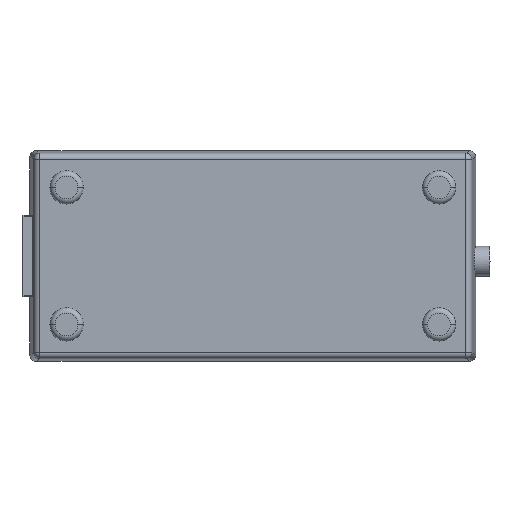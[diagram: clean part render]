
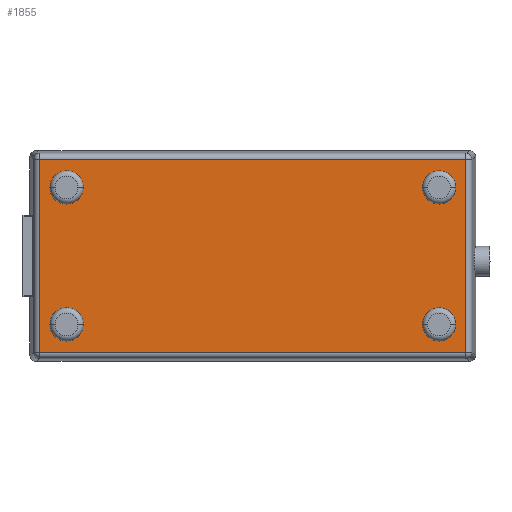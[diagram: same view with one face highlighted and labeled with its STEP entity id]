
A CAD part, top view. The second image highlights one B-rep face of the part: STEP entity #1855.
In plain terms, the highlighted planar face has unit normal (0, 0, 1).
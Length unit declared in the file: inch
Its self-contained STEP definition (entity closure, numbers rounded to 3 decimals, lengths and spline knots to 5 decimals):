
#251=DIRECTION('',(0.,1.,0.));
#252=VECTOR('',#251,2.90941);
#253=CARTESIAN_POINT('',(6.55251,0.1253,2.08));
#254=LINE('',#253,#252);
#255=DIRECTION('',(1.,0.,0.));
#256=VECTOR('',#255,6.40502);
#257=CARTESIAN_POINT('',(0.14749,0.1253,2.08));
#258=LINE('',#257,#256);
#259=DIRECTION('',(0.,-1.,0.));
#260=VECTOR('',#259,2.90941);
#261=CARTESIAN_POINT('',(0.14749,3.0347,2.08));
#262=LINE('',#261,#260);
#263=DIRECTION('',(-1.,0.,0.));
#264=VECTOR('',#263,6.40502);
#265=CARTESIAN_POINT('',(6.55251,3.0347,2.08));
#266=LINE('',#265,#264);
#267=CARTESIAN_POINT('',(0.55,2.61,2.08));
#268=DIRECTION('',(0.,0.,1.));
#269=DIRECTION('',(1.,0.,0.));
#270=AXIS2_PLACEMENT_3D('',#267,#268,#269);
#272=CARTESIAN_POINT('',(0.55,2.61,2.08));
#273=DIRECTION('',(0.,0.,1.));
#274=DIRECTION('',(-1.,0.,0.));
#275=AXIS2_PLACEMENT_3D('',#272,#273,#274);
#277=CARTESIAN_POINT('',(0.55,0.55,2.08));
#278=DIRECTION('',(0.,0.,1.));
#279=DIRECTION('',(-1.,0.,0.));
#280=AXIS2_PLACEMENT_3D('',#277,#278,#279);
#282=CARTESIAN_POINT('',(0.55,0.55,2.08));
#283=DIRECTION('',(0.,0.,1.));
#284=DIRECTION('',(1.,0.,0.));
#285=AXIS2_PLACEMENT_3D('',#282,#283,#284);
#287=CARTESIAN_POINT('',(6.15,0.55,2.08));
#288=DIRECTION('',(0.,0.,1.));
#289=DIRECTION('',(-1.,0.,0.));
#290=AXIS2_PLACEMENT_3D('',#287,#288,#289);
#292=CARTESIAN_POINT('',(6.15,0.55,2.08));
#293=DIRECTION('',(0.,0.,1.));
#294=DIRECTION('',(1.,0.,0.));
#295=AXIS2_PLACEMENT_3D('',#292,#293,#294);
#297=CARTESIAN_POINT('',(6.15,2.61,2.08));
#298=DIRECTION('',(0.,0.,1.));
#299=DIRECTION('',(1.,0.,0.));
#300=AXIS2_PLACEMENT_3D('',#297,#298,#299);
#302=CARTESIAN_POINT('',(6.15,2.61,2.08));
#303=DIRECTION('',(0.,0.,1.));
#304=DIRECTION('',(-1.,0.,0.));
#305=AXIS2_PLACEMENT_3D('',#302,#303,#304);
#1352=CARTESIAN_POINT('',(6.55251,0.1253,2.08));
#1353=CARTESIAN_POINT('',(6.55251,3.0347,2.08));
#1354=VERTEX_POINT('',#1352);
#1355=VERTEX_POINT('',#1353);
#1390=CARTESIAN_POINT('',(0.14749,3.0347,2.08));
#1391=VERTEX_POINT('',#1390);
#1394=CARTESIAN_POINT('',(0.14749,0.1253,2.08));
#1395=VERTEX_POINT('',#1394);
#1416=CARTESIAN_POINT('',(0.8,2.61,2.08));
#1417=CARTESIAN_POINT('',(0.3,2.61,2.08));
#1418=VERTEX_POINT('',#1416);
#1419=VERTEX_POINT('',#1417);
#1424=CARTESIAN_POINT('',(0.3,0.55,2.08));
#1425=CARTESIAN_POINT('',(0.8,0.55,2.08));
#1426=VERTEX_POINT('',#1424);
#1427=VERTEX_POINT('',#1425);
#1432=CARTESIAN_POINT('',(5.9,0.55,2.08));
#1433=CARTESIAN_POINT('',(6.4,0.55,2.08));
#1434=VERTEX_POINT('',#1432);
#1435=VERTEX_POINT('',#1433);
#1440=CARTESIAN_POINT('',(6.4,2.61,2.08));
#1441=CARTESIAN_POINT('',(5.9,2.61,2.08));
#1442=VERTEX_POINT('',#1440);
#1443=VERTEX_POINT('',#1441);
#1818=CARTESIAN_POINT('',(0.,0.,2.08));
#1819=DIRECTION('',(0.,0.,1.));
#1820=DIRECTION('',(1.,0.,0.));
#1821=AXIS2_PLACEMENT_3D('',#1818,#1819,#1820);
#1822=PLANE('',#1821);
#1824=ORIENTED_EDGE('',*,*,#1823,.F.);
#1825=ORIENTED_EDGE('',*,*,#1808,.F.);
#1826=ORIENTED_EDGE('',*,*,#1746,.F.);
#1828=ORIENTED_EDGE('',*,*,#1827,.F.);
#1829=EDGE_LOOP('',(#1824,#1825,#1826,#1828));
#1830=FACE_OUTER_BOUND('',#1829,.F.);
#1832=ORIENTED_EDGE('',*,*,#1831,.T.);
#1834=ORIENTED_EDGE('',*,*,#1833,.T.);
#1835=EDGE_LOOP('',(#1832,#1834));
#1836=FACE_BOUND('',#1835,.F.);
#1838=ORIENTED_EDGE('',*,*,#1837,.T.);
#1840=ORIENTED_EDGE('',*,*,#1839,.T.);
#1841=EDGE_LOOP('',(#1838,#1840));
#1842=FACE_BOUND('',#1841,.F.);
#1844=ORIENTED_EDGE('',*,*,#1843,.T.);
#1846=ORIENTED_EDGE('',*,*,#1845,.T.);
#1847=EDGE_LOOP('',(#1844,#1846));
#1848=FACE_BOUND('',#1847,.F.);
#1850=ORIENTED_EDGE('',*,*,#1849,.T.);
#1852=ORIENTED_EDGE('',*,*,#1851,.T.);
#1853=EDGE_LOOP('',(#1850,#1852));
#1854=FACE_BOUND('',#1853,.F.);
#1855=ADVANCED_FACE('',(#1830,#1836,#1842,#1848,#1854),#1822,.T.);
#271=CIRCLE('',#270,0.25);
#276=CIRCLE('',#275,0.25);
#281=CIRCLE('',#280,0.25);
#286=CIRCLE('',#285,0.25);
#291=CIRCLE('',#290,0.25);
#296=CIRCLE('',#295,0.25);
#301=CIRCLE('',#300,0.25);
#306=CIRCLE('',#305,0.25);
#1746=EDGE_CURVE('',#1391,#1395,#262,.T.);
#1808=EDGE_CURVE('',#1395,#1354,#258,.T.);
#1823=EDGE_CURVE('',#1354,#1355,#254,.T.);
#1827=EDGE_CURVE('',#1355,#1391,#266,.T.);
#1831=EDGE_CURVE('',#1418,#1419,#271,.T.);
#1833=EDGE_CURVE('',#1419,#1418,#276,.T.);
#1837=EDGE_CURVE('',#1426,#1427,#281,.T.);
#1839=EDGE_CURVE('',#1427,#1426,#286,.T.);
#1843=EDGE_CURVE('',#1434,#1435,#291,.T.);
#1845=EDGE_CURVE('',#1435,#1434,#296,.T.);
#1849=EDGE_CURVE('',#1442,#1443,#301,.T.);
#1851=EDGE_CURVE('',#1443,#1442,#306,.T.);
